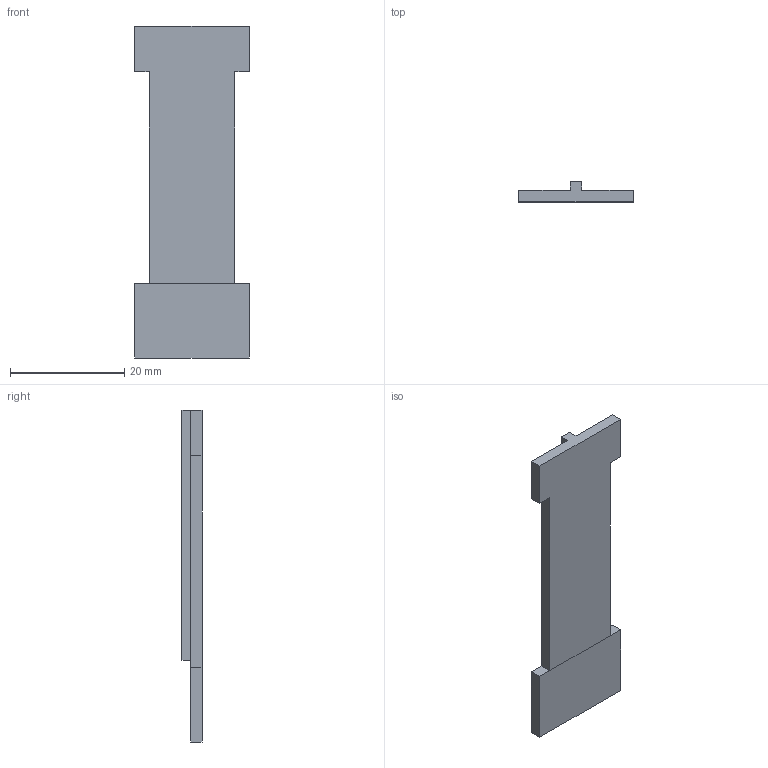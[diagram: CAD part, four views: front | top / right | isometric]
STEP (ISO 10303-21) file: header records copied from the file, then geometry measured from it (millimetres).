
FILE_DESCRIPTION (( 'STEP AP214' ), '1' );
FILE_NAME ('002391.STEP', '2022-02-21T08:22:22', ( '' ), ( '' ), 'SwSTEP 2.0', 'SolidWorks 2021', '' );
FILE_SCHEMA (( 'AUTOMOTIVE_DESIGN' ));
Length unit declared in the file: millimetre
Products named in the file (1): 002391
Bounding box: 20 x 3.5 x 58 mm (x, y, z)
Volume: 2081.1 mm3; surface area: 2479.1 mm2
Topology: 2 solids, 2 shells, 20 faces, 48 edges, 32 vertices
Faces by surface type: plane 20
Entity records: 615 total; most frequent: CARTESIAN_POINT 101, ORIENTED_EDGE 96, DIRECTION 90, VECTOR 48, EDGE_CURVE 48, LINE 48, VERTEX_POINT 32, AXIS2_PLACEMENT_3D 21
